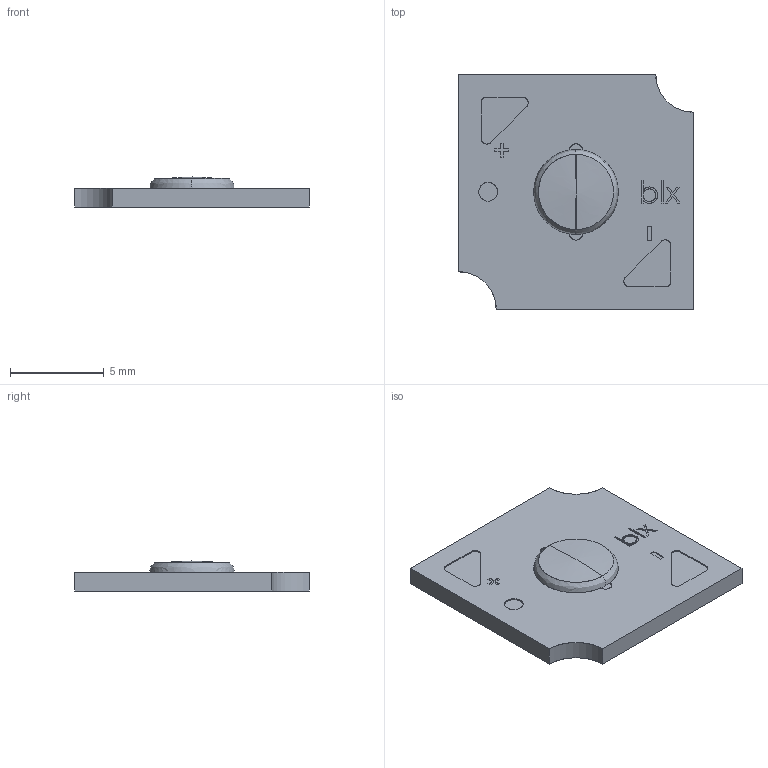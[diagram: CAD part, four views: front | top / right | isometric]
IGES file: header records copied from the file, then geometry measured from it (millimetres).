
Start section: SolidWorks IGES file using analytic representation for surfaces
Bounding box: 12.5 x 12.5 x 1.6 mm (x, y, z)
Surface area: 385.6 mm2 (no closed solid volume)
Topology: 0 solids, 0 shells, 94 faces, 800 edges, 798 vertices
Faces by surface type: bspline 68, revolution 26
